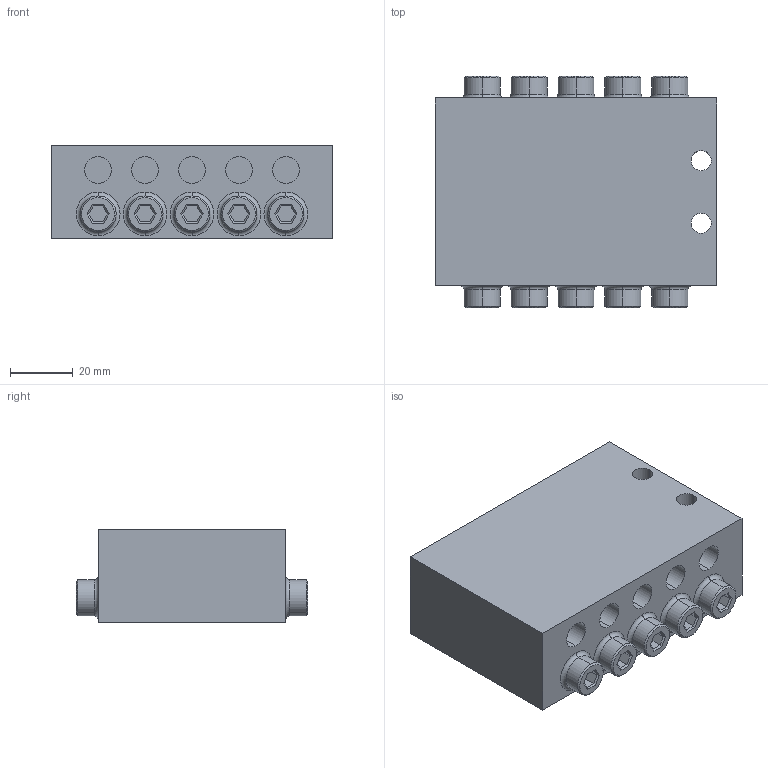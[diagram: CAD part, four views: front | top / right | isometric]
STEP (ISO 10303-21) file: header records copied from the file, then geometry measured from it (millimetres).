
FILE_DESCRIPTION (( 'STEP AP203' ), '1' );
FILE_NAME ('ASV10-1.STEP', '2020-04-18T01:27:03', ( '个人用户' ), ( '微软中国' ), 'SwSTEP 2.0', 'SolidWorks 2018', '' );
FILE_SCHEMA (( 'CONFIG_CONTROL_DESIGN' ));
Length unit declared in the file: millimetre
Products named in the file (1): ASV10-1
Bounding box: 90 x 74 x 30 mm (x, y, z)
Volume: 157456.4 mm3; surface area: 28071.3 mm2
Topology: 1 solids, 1 shells, 246 faces, 536 edges, 324 vertices
Faces by surface type: plane 158, cylinder 48, cone 20, torus 20
Entity records: 6681 total; most frequent: DIRECTION 1186, CARTESIAN_POINT 1107, ORIENTED_EDGE 1072, EDGE_CURVE 536, AXIS2_PLACEMENT_3D 403, LINE 380, VECTOR 380, VERTEX_POINT 324
